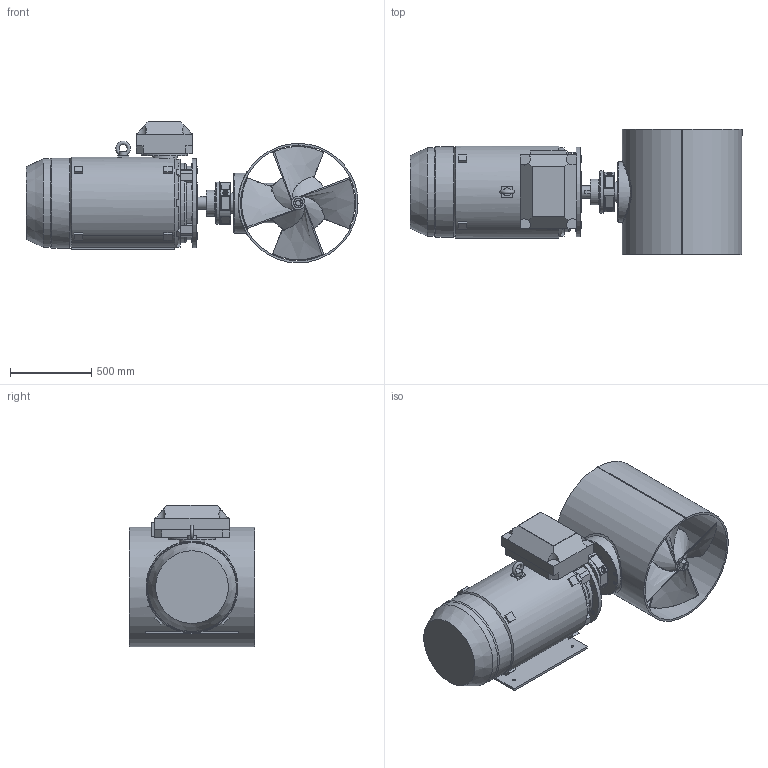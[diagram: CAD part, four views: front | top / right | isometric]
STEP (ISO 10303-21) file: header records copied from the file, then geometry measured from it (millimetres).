
FILE_DESCRIPTION(/* description */ (''),/* implementation_level */ '2;1');
FILE_NAME(/* name */ 'Q:\THRUSTERS\THRUSTER SALES & SUPPORT DOCS\THRUSTER Sales\E-T\E-0700-T\2018\E-0700-T.stp',/* time_stamp */ '2018-06-15T11:17:05+01:00',/* author */ ('Lorena'),/* organization */ (''),/* preprocessor_version */ 'ST-DEVELOPER v17',/* originating_system */ 'Autodesk Inventor 2018',/* authorisation */ '');
FILE_SCHEMA (('AUTOMOTIVE_DESIGN { 1 0 10303 214 3 1 1 }'));
Products named in the file (1): E-0700-T
Bounding box: 2044.82 x 771 x 873.43 mm (x, y, z)
Surface area: 9975335.5 mm2 (no closed solid volume)
Topology: 0 solids, 69 shells, 1016 faces, 3951 edges, 2956 vertices
Faces by surface type: plane 434, cylinder 285, torus 116, bspline 112, cone 57, sphere 12
Full cylindrical faces by diameter (mm): 5 x8, 15 x4, 17 x6, 18 x8, 19 x12, 20 x3, 25.4 x16, 30 x2, 30.505 x3, 31.75 x3, 36 x2, 50 x1, 75 x1, 80 x1, 82.5 x2, 125 x1, 157 x1, 160 x1, 195 x1, 260 x1, 284 x1, 370 x5, 392 x1, 547 x1, 550 x1, 555 x1
Entity records: 53230 total; most frequent: CARTESIAN_POINT 19729, DIRECTION 6790, ORIENTED_EDGE 6155, EDGE_CURVE 3936, VERTEX_POINT 2956, AXIS2_PLACEMENT_3D 2542, LINE 1706, VECTOR 1706
